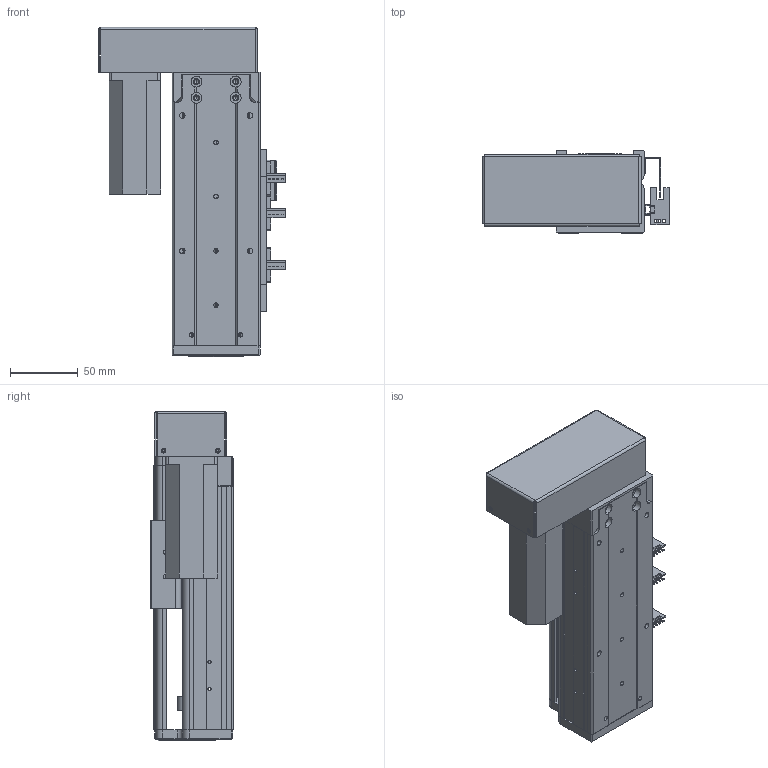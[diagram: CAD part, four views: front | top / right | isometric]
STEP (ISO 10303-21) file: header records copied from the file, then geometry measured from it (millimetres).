
FILE_DESCRIPTION (( 'STEP AP203' ), '1' );
FILE_NAME ('RY60-L1210-50-LK.STEP', '2022-07-16T05:45:25', ( '盈信电脑' ), ( '东莞市道滘镇水果街19号' ), 'SwSTEP 2.0', 'SolidWorks 2016', '' );
FILE_SCHEMA (( 'CONFIG_CONTROL_DESIGN' ));
Length unit declared in the file: millimetre
Products named in the file (14): RY60转折电机端支撑座; RY60綴裔啣; RY60-L1210-50-LK; 侂狟100W; RY80俋离覜茼え; RY60-300倰第裔啣-LK_100; 覜茼ん672; RY60-300倰第菁釱-LK_100; RY60臏賑輸; RY60酘衵殏萇儂欶; 672嫖萇羲壽假蚾釱; RY60-300-佪裝蹟譫SFU1204-RK; RY60左右折电机安装板-PCD46-M4; 滅袉蝶18-10
Assembly tree (19 placements, depth 2):
  RY60-L1210-50-LK
    RY60-300倰第菁釱-LK_100
    RY60-300-佪裝蹟譫SFU1204-RK
    RY60臏賑輸
    RY60-300倰第裔啣-LK_100
    672嫖萇羲壽假蚾釱  x2
    RY60綴裔啣
    覜茼ん672  x3
    RY80俋离覜茼え
    滅袉蝶18-10  x4
    RY60转折电机端支撑座
    RY60左右折电机安装板-PCD46-M4
    侂狟100W
    RY60酘衵殏萇儂欶
Bounding box: 137.9 x 61 x 243 mm (x, y, z)
Volume: 510317 mm3; surface area: 238360 mm2
Topology: 19 solids, 19 shells, 1357 faces, 3740 edges, 2398 vertices
Faces by surface type: plane 686, cylinder 556, cone 98, bspline 17
Entity records: 39194 total; most frequent: CARTESIAN_POINT 8657, ORIENTED_EDGE 6068, DIRECTION 5974, EDGE_CURVE 3034, AXIS2_PLACEMENT_3D 2049, VERTEX_POINT 1978, LINE 1876, VECTOR 1876
